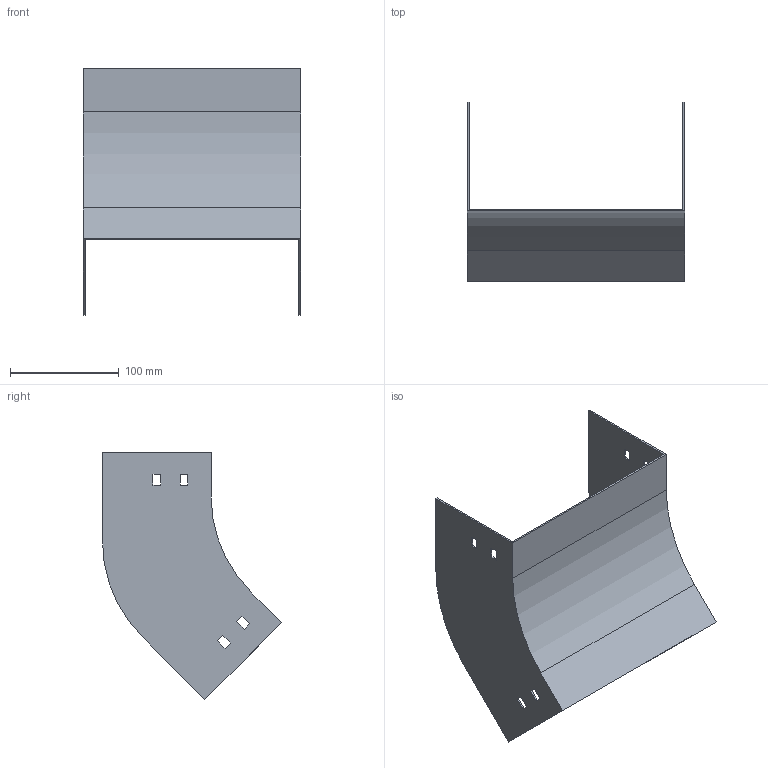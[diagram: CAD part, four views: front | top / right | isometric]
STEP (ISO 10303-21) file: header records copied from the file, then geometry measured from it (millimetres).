
FILE_DESCRIPTION (( 'STEP AP214' ), '1' );
FILE_NAME ('D4_201.step', '2025-07-16T09:07:10', ( '' ), ( '' ), 'SwSTEP 2.0', 'SolidWorks 2023', '' );
FILE_SCHEMA (( 'AUTOMOTIVE_DESIGN' ));
Length unit declared in the file: millimetre
Products named in the file (1): D4_201
Bounding box: 200 x 164.9 x 227.38 mm (x, y, z)
Volume: 119477.1 mm3; surface area: 161683.1 mm2
Topology: 1 solids, 1 shells, 50 faces, 144 edges, 96 vertices
Faces by surface type: plane 46, cylinder 4
Entity records: 1671 total; most frequent: CARTESIAN_POINT 291, ORIENTED_EDGE 288, DIRECTION 254, EDGE_CURVE 144, VECTOR 136, LINE 136, VERTEX_POINT 96, EDGE_LOOP 66
